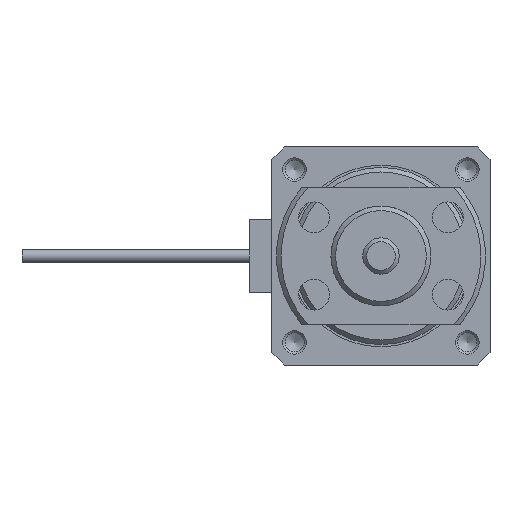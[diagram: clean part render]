
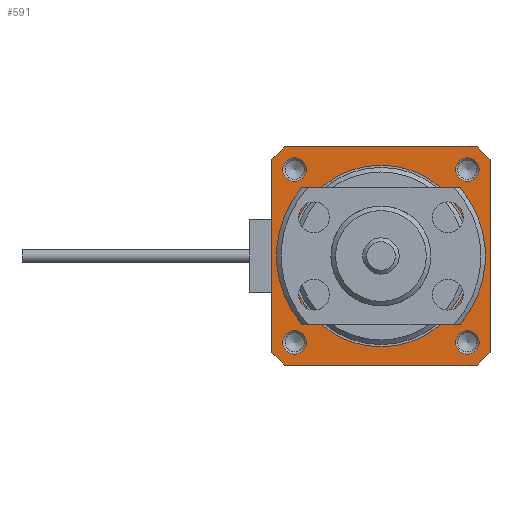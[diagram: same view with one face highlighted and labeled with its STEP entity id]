
A CAD part, left-side view. The second image highlights one B-rep face of the part: STEP entity #591.
In plain terms, the highlighted planar face has unit normal (-1, 0, 0) as drawn and (0, 0, 1) by its records, which use the part's own axes.
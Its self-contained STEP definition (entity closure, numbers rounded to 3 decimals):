
#591 = ADVANCED_FACE( '', ( #1277, #1278, #1279, #1280, #1281, #1282 ), #1283, .F. );
#1277 = FACE_OUTER_BOUND( '', #2092, .T. );
#1278 = FACE_BOUND( '', #2093, .T. );
#1279 = FACE_BOUND( '', #2094, .T. );
#1280 = FACE_BOUND( '', #2095, .T. );
#1281 = FACE_BOUND( '', #2096, .T. );
#1282 = FACE_BOUND( '', #2097, .T. );
#1283 = PLANE( '', #2098 );
#2092 = EDGE_LOOP( '', ( #3765, #3766, #3767, #3768, #3769, #3770, #3771, #3772 ) );
#2093 = EDGE_LOOP( '', ( #3773 ) );
#2094 = EDGE_LOOP( '', ( #3774 ) );
#2095 = EDGE_LOOP( '', ( #3775 ) );
#2096 = EDGE_LOOP( '', ( #3776 ) );
#2097 = EDGE_LOOP( '', ( #3777 ) );
#2098 = AXIS2_PLACEMENT_3D( '', #3778, #3779, #3780 );
#3765 = ORIENTED_EDGE( '', *, *, #4771, .T. );
#3766 = ORIENTED_EDGE( '', *, *, #4632, .F. );
#3767 = ORIENTED_EDGE( '', *, *, #5176, .T. );
#3768 = ORIENTED_EDGE( '', *, *, #5177, .F. );
#3769 = ORIENTED_EDGE( '', *, *, #5003, .T. );
#3770 = ORIENTED_EDGE( '', *, *, #4650, .F. );
#3771 = ORIENTED_EDGE( '', *, *, #5144, .T. );
#3772 = ORIENTED_EDGE( '', *, *, #4726, .F. );
#3773 = ORIENTED_EDGE( '', *, *, #4859, .T. );
#3774 = ORIENTED_EDGE( '', *, *, #5064, .T. );
#3775 = ORIENTED_EDGE( '', *, *, #4833, .T. );
#3776 = ORIENTED_EDGE( '', *, *, #5178, .T. );
#3777 = ORIENTED_EDGE( '', *, *, #5133, .T. );
#3778 = CARTESIAN_POINT( '', ( 0., 10., -63.5 ) );
#3779 = DIRECTION( '', ( 0., 0., -1. ) );
#3780 = DIRECTION( '', ( -1., 0., 0. ) );
#4632 = EDGE_CURVE( '', #5505, #5501, #5507, .T. );
#4650 = EDGE_CURVE( '', #5537, #5533, #5539, .T. );
#4726 = EDGE_CURVE( '', #5671, #5667, #5673, .T. );
#4771 = EDGE_CURVE( '', #5671, #5501, #5744, .T. );
#4833 = EDGE_CURVE( '', #5845, #5845, #5846, .T. );
#4859 = EDGE_CURVE( '', #5885, #5885, #5886, .T. );
#5003 = EDGE_CURVE( '', #6113, #5533, #6114, .T. );
#5064 = EDGE_CURVE( '', #6198, #6198, #6199, .T. );
#5133 = EDGE_CURVE( '', #6288, #6288, #6289, .T. );
#5144 = EDGE_CURVE( '', #5537, #5667, #6301, .T. );
#5176 = EDGE_CURVE( '', #5505, #6339, #6340, .T. );
#5177 = EDGE_CURVE( '', #6113, #6339, #6341, .T. );
#5178 = EDGE_CURVE( '', #6342, #6342, #6343, .T. );
#5501 = VERTEX_POINT( '', #6863 );
#5505 = VERTEX_POINT( '', #6868 );
#5507 = CIRCLE( '', #6871, 16. );
#5533 = VERTEX_POINT( '', #6908 );
#5537 = VERTEX_POINT( '', #6913 );
#5539 = CIRCLE( '', #6916, 16. );
#5667 = VERTEX_POINT( '', #7098 );
#5671 = VERTEX_POINT( '', #7103 );
#5673 = CIRCLE( '', #7106, 16. );
#5744 = LINE( '', #7205, #7206 );
#5845 = VERTEX_POINT( '', #7352 );
#5846 = CIRCLE( '', #7353, 1.3 );
#5885 = VERTEX_POINT( '', #7405 );
#5886 = CIRCLE( '', #7406, 1.3 );
#6113 = VERTEX_POINT( '', #7736 );
#6114 = LINE( '', #7737, #7738 );
#6198 = VERTEX_POINT( '', #7890 );
#6199 = CIRCLE( '', #7891, 1.3 );
#6288 = VERTEX_POINT( '', #8033 );
#6289 = CIRCLE( '', #8034, 10. );
#6301 = LINE( '', #8050, #8051 );
#6339 = VERTEX_POINT( '', #8120 );
#6340 = LINE( '', #8121, #8122 );
#6341 = CIRCLE( '', #8123, 16. );
#6342 = VERTEX_POINT( '', #8124 );
#6343 = CIRCLE( '', #8125, 1.3 );
#6863 = CARTESIAN_POINT( '', ( -10.583, 12., -63.5 ) );
#6868 = CARTESIAN_POINT( '', ( -12., 10.583, -63.5 ) );
#6871 = AXIS2_PLACEMENT_3D( '', #8567, #8568, #8569 );
#6908 = CARTESIAN_POINT( '', ( 10.583, -12., -63.5 ) );
#6913 = CARTESIAN_POINT( '', ( 12., -10.583, -63.5 ) );
#6916 = AXIS2_PLACEMENT_3D( '', #8586, #8587, #8588 );
#7098 = CARTESIAN_POINT( '', ( 12., 10.583, -63.5 ) );
#7103 = CARTESIAN_POINT( '', ( 10.583, 12., -63.5 ) );
#7106 = AXIS2_PLACEMENT_3D( '', #8677, #8678, #8679 );
#7205 = CARTESIAN_POINT( '', ( 12., 12., -63.5 ) );
#7206 = VECTOR( '', #8723, 1000. );
#7352 = CARTESIAN_POINT( '', ( 8.2, 9.5, -63.5 ) );
#7353 = AXIS2_PLACEMENT_3D( '', #8788, #8789, #8790 );
#7405 = CARTESIAN_POINT( '', ( 8.2, -9.5, -63.5 ) );
#7406 = AXIS2_PLACEMENT_3D( '', #8816, #8817, #8818 );
#7736 = CARTESIAN_POINT( '', ( -10.583, -12., -63.5 ) );
#7737 = CARTESIAN_POINT( '', ( -12., -12., -63.5 ) );
#7738 = VECTOR( '', #8981, 1000. );
#7890 = CARTESIAN_POINT( '', ( -10.8, -9.5, -63.5 ) );
#7891 = AXIS2_PLACEMENT_3D( '', #9026, #9027, #9028 );
#8033 = CARTESIAN_POINT( '', ( -10., 0., -63.5 ) );
#8034 = AXIS2_PLACEMENT_3D( '', #9091, #9092, #9093 );
#8050 = CARTESIAN_POINT( '', ( 12., -12., -63.5 ) );
#8051 = VECTOR( '', #9104, 1000. );
#8120 = CARTESIAN_POINT( '', ( -12., -10.583, -63.5 ) );
#8121 = CARTESIAN_POINT( '', ( -12., 12., -63.5 ) );
#8122 = VECTOR( '', #9121, 1000. );
#8123 = AXIS2_PLACEMENT_3D( '', #9122, #9123, #9124 );
#8124 = CARTESIAN_POINT( '', ( -10.8, 9.5, -63.5 ) );
#8125 = AXIS2_PLACEMENT_3D( '', #9125, #9126, #9127 );
#8567 = CARTESIAN_POINT( '', ( 0., 0., -63.5 ) );
#8568 = DIRECTION( '', ( 0., 0., -1. ) );
#8569 = DIRECTION( '', ( -1., 0., 0. ) );
#8586 = CARTESIAN_POINT( '', ( 0., 0., -63.5 ) );
#8587 = DIRECTION( '', ( 0., 0., -1. ) );
#8588 = DIRECTION( '', ( -1., 0., 0. ) );
#8677 = CARTESIAN_POINT( '', ( 0., 0., -63.5 ) );
#8678 = DIRECTION( '', ( 0., 0., -1. ) );
#8679 = DIRECTION( '', ( -1., 0., 0. ) );
#8723 = DIRECTION( '', ( -1., 0., 0. ) );
#8788 = CARTESIAN_POINT( '', ( 9.5, 9.5, -63.5 ) );
#8789 = DIRECTION( '', ( 0., 0., -1. ) );
#8790 = DIRECTION( '', ( -1., 0., 0. ) );
#8816 = CARTESIAN_POINT( '', ( 9.5, -9.5, -63.5 ) );
#8817 = DIRECTION( '', ( 0., 0., -1. ) );
#8818 = DIRECTION( '', ( -1., 0., 0. ) );
#8981 = DIRECTION( '', ( 1., 0., 0. ) );
#9026 = CARTESIAN_POINT( '', ( -9.5, -9.5, -63.5 ) );
#9027 = DIRECTION( '', ( 0., 0., -1. ) );
#9028 = DIRECTION( '', ( -1., 0., 0. ) );
#9091 = CARTESIAN_POINT( '', ( 0., 0., -63.5 ) );
#9092 = DIRECTION( '', ( 0., 0., -1. ) );
#9093 = DIRECTION( '', ( -1., 0., 0. ) );
#9104 = DIRECTION( '', ( 0., 1., 0. ) );
#9121 = DIRECTION( '', ( 0., -1., 0. ) );
#9122 = CARTESIAN_POINT( '', ( 0., 0., -63.5 ) );
#9123 = DIRECTION( '', ( 0., 0., -1. ) );
#9124 = DIRECTION( '', ( -1., 0., 0. ) );
#9125 = CARTESIAN_POINT( '', ( -9.5, 9.5, -63.5 ) );
#9126 = DIRECTION( '', ( 0., 0., -1. ) );
#9127 = DIRECTION( '', ( -1., 0., 0. ) );
